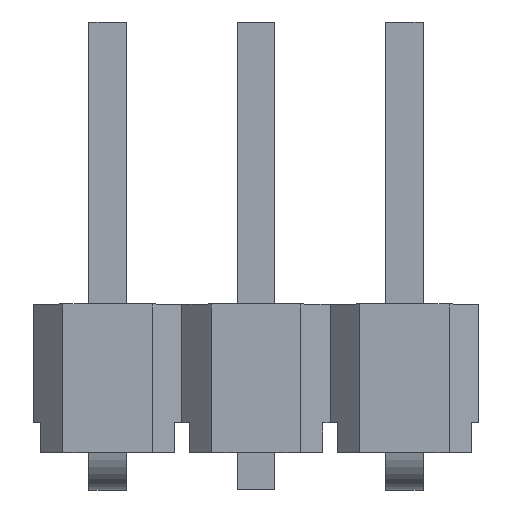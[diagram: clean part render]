
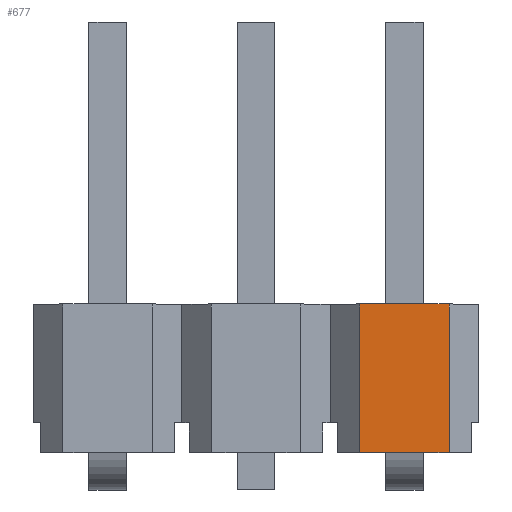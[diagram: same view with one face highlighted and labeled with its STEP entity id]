
A CAD part, top view. The second image highlights one B-rep face of the part: STEP entity #677.
In plain terms, the highlighted planar face has unit normal (0, 0, 1).
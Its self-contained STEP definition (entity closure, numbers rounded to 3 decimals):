
#63 = AXIS2_PLACEMENT_3D ( 'NONE', #2760, #98, #2475 ) ;
#98 = DIRECTION ( 'NONE',  ( 0., 0., -1. ) ) ;
#141 = EDGE_CURVE ( 'NONE', #2395, #2172, #404, .T. ) ;
#234 = DIRECTION ( 'NONE',  ( 0., 1., 0. ) ) ;
#388 = DIRECTION ( 'NONE',  ( -1., 0., 0. ) ) ;
#404 = LINE ( 'NONE', #1364, #2226 ) ;
#509 = CARTESIAN_POINT ( 'NONE',  ( 5.798, 1.289, 3. ) ) ;
#511 = DIRECTION ( 'NONE',  ( 1., 0., 0. ) ) ;
#550 = VECTOR ( 'NONE', #388, 1000. ) ;
#622 = EDGE_CURVE ( 'NONE', #1108, #2395, #1682, .T. ) ;
#648 = CARTESIAN_POINT ( 'NONE',  ( 5.798, -0.711, 3. ) ) ;
#657 = ORIENTED_EDGE ( 'NONE', *, *, #2518, .F. ) ;
#677 = ADVANCED_FACE ( 'NONE', ( #817 ), #1089, .F. ) ;
#817 = FACE_OUTER_BOUND ( 'NONE', #2719, .T. ) ;
#831 = ORIENTED_EDGE ( 'NONE', *, *, #141, .T. ) ;
#1089 = PLANE ( 'NONE',  #63 ) ;
#1108 = VERTEX_POINT ( 'NONE', #2574 ) ;
#1129 = CARTESIAN_POINT ( 'NONE',  ( 4.598, -0.711, 3. ) ) ;
#1241 = VECTOR ( 'NONE', #234, 1000. ) ;
#1276 = ORIENTED_EDGE ( 'NONE', *, *, #622, .T. ) ;
#1364 = CARTESIAN_POINT ( 'NONE',  ( 5.798, -0.711, 3. ) ) ;
#1551 = LINE ( 'NONE', #2056, #550 ) ;
#1581 = EDGE_CURVE ( 'NONE', #2172, #1896, #1551, .T. ) ;
#1682 = LINE ( 'NONE', #2627, #2777 ) ;
#1896 = VERTEX_POINT ( 'NONE', #3008 ) ;
#1941 = ORIENTED_EDGE ( 'NONE', *, *, #1581, .T. ) ;
#2056 = CARTESIAN_POINT ( 'NONE',  ( 5.798, 1.289, 3. ) ) ;
#2172 = VERTEX_POINT ( 'NONE', #509 ) ;
#2226 = VECTOR ( 'NONE', #2309, 1000. ) ;
#2309 = DIRECTION ( 'NONE',  ( 0., 1., 0. ) ) ;
#2344 = LINE ( 'NONE', #1129, #1241 ) ;
#2395 = VERTEX_POINT ( 'NONE', #648 ) ;
#2475 = DIRECTION ( 'NONE',  ( 1., 0., 0. ) ) ;
#2518 = EDGE_CURVE ( 'NONE', #1108, #1896, #2344, .T. ) ;
#2574 = CARTESIAN_POINT ( 'NONE',  ( 4.598, -0.711, 3. ) ) ;
#2627 = CARTESIAN_POINT ( 'NONE',  ( 4.198, -0.711, 3. ) ) ;
#2719 = EDGE_LOOP ( 'NONE', ( #1276, #831, #1941, #657 ) ) ;
#2760 = CARTESIAN_POINT ( 'NONE',  ( 6.114, 0., 3. ) ) ;
#2777 = VECTOR ( 'NONE', #511, 1000. ) ;
#3008 = CARTESIAN_POINT ( 'NONE',  ( 4.598, 1.289, 3. ) ) ;
